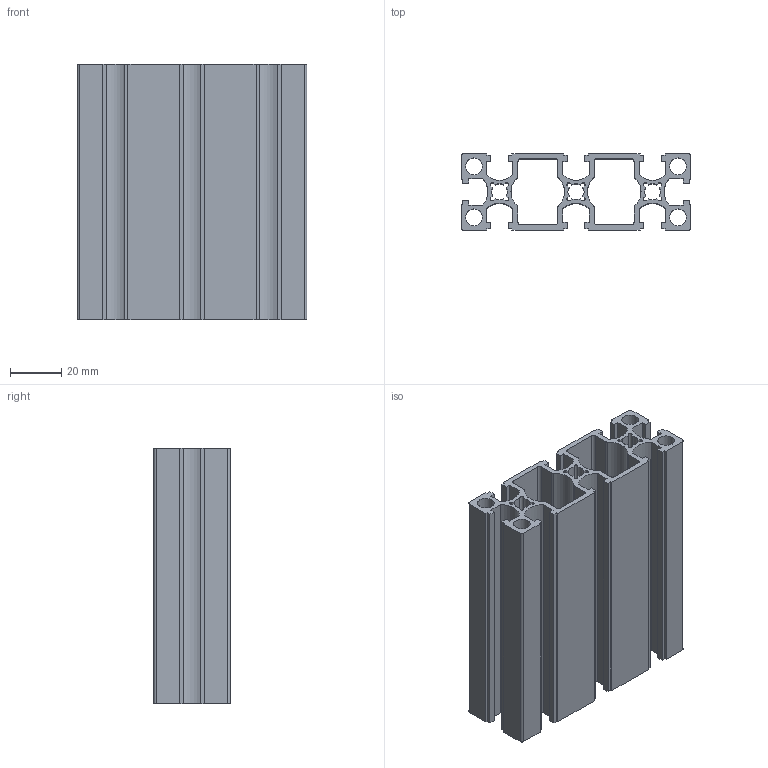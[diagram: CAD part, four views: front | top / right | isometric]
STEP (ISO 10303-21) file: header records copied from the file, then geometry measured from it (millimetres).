
FILE_DESCRIPTION(/* description */ (''),/* implementation_level */ '2;1');
FILE_NAME(/* name */ 'C:\Users\Owner\Documents\硯聰\Inv材料庫-3D新型錄\AM-(鋁擠)\6系列\AM6-3090_100L.stp',/* time_stamp */ '2019-02-21T14:26:24+08:00',/* author */ ('Owner'),/* organization */ (''),/* preprocessor_version */ 'ST-DEVELOPER v16.1',/* originating_system */ 'Autodesk Inventor 2016',/* authorisation */ '');
FILE_SCHEMA (('AUTOMOTIVE_DESIGN { 1 0 10303 214 3 1 1 }'));
Length unit declared in the file: millimetre
Products named in the file (1): AM6-3090_100L
Bounding box: 90 x 30 x 100 mm (x, y, z)
Volume: 80355 mm3; surface area: 80041 mm2
Topology: 1 solids, 1 shells, 190 faces, 564 edges, 376 vertices
Faces by surface type: plane 130, cylinder 60
Full cylindrical faces by diameter (mm): 6.5 x4
Entity records: 6388 total; most frequent: CARTESIAN_POINT 1127, ORIENTED_EDGE 1120, DIRECTION 1062, EDGE_CURVE 560, LINE 440, VECTOR 440, VERTEX_POINT 376, AXIS2_PLACEMENT_3D 311
